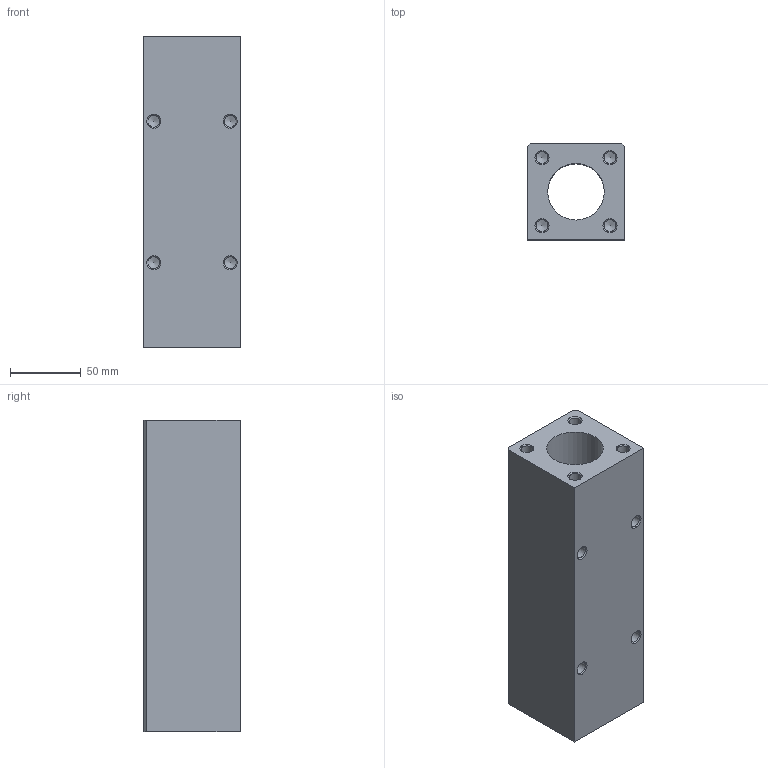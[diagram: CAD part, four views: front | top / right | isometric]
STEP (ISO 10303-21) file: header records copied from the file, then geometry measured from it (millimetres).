
FILE_DESCRIPTION( ( 'STEP AP214' ), '1' );
FILE_NAME( 'U:/Etudes/Top Solid/BIBLIO 3D AVM/STEP/G_GUIDAGE/Accessoires/Paliers/5136952.step', '2014-01-22T07:14:49', ( ' ' ), ( ' ' ), 'XStep 1.0', ' ', ' ' );
FILE_SCHEMA( ( 'automotive_design' ) );
Length unit declared in the file: millimetre
Products named in the file (1): 1
Bounding box: 69 x 68 x 220 mm (x, y, z)
Volume: 744274.7 mm3; surface area: 99409.6 mm2
Topology: 1 solids, 1 shells, 65 faces, 141 edges, 94 vertices
Faces by surface type: cylinder 25, plane 24, cone 16
Full cylindrical faces by diameter (mm): 8.376 x16, 10.2 x8, 40 x1
Entity records: 1944 total; most frequent: DIRECTION 266, CARTESIAN_POINT 220, ORIENTED_EDGE 152, AXIS2_PLACEMENT_3D 124, EDGE_LOOP 124, FACE_OUTER_BOUND 90, VERTEX_POINT 78, EDGE_CURVE 76
